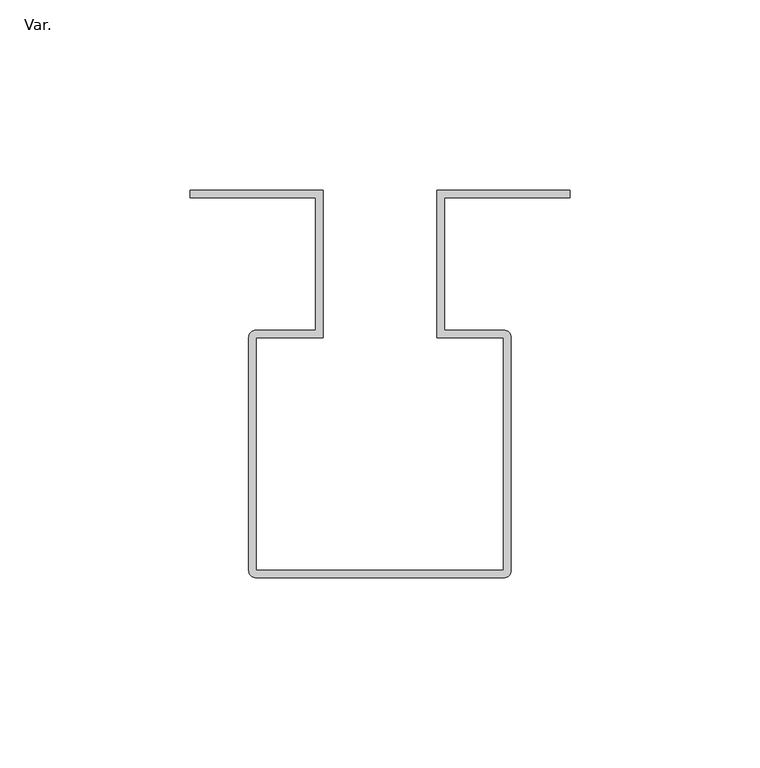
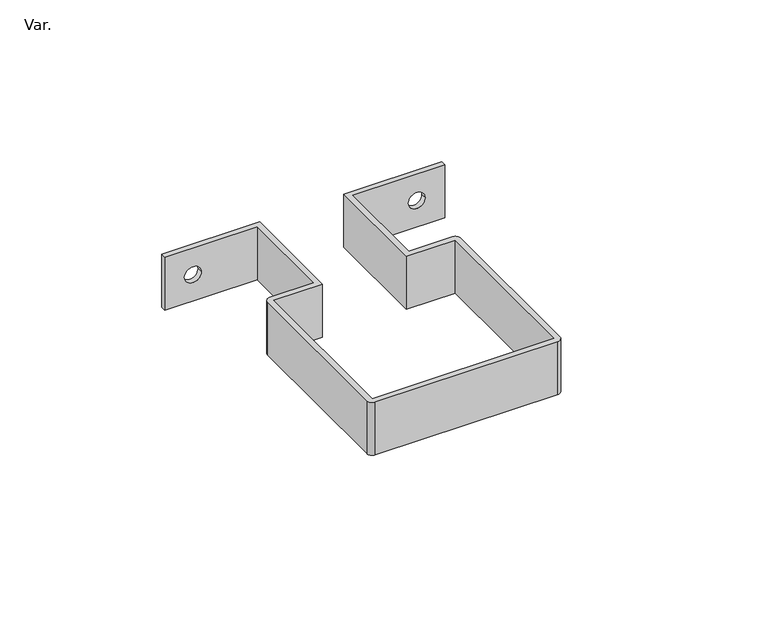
"""IFC4 building model written with IfcOpenShell, lengths in millimetres: pipe fitting geometry, PlastigamaWavin_Unionesdetubería_CanalesyBajantes_SoportedeBajante : Var.."""

from ifc_helpers import new_model, si_unit, frame, origin, place, context, project, spatial, polyline, circle_curve, source, transform, mapped, element, save
from ifc_brep_helpers import plane_surface, cylinder_surface, revolved_surface, advanced_brep


def var_38eae97e(model_context):
    return source(origin(), model_context, "Body", "AdvancedBrep", [
        advanced_brep(
        [(-34.53, 30.605, 10.0), (-34.53, -30.585, 10.0), (-32.53, -32.585, 10.0), (32.53, -32.585, 10.0), (34.53, -30.585, 10.0), (34.53, 30.605, 10.0), (32.55, 32.585, 10.0), (16.98, 32.585, 10.0), (16.98, 67.435, 10.0), (50.0, 67.435, 10.0), (50.0, 69.415, 10.0), (15.0, 69.415, 10.0), (15.0, 30.605, 10.0), (32.55, 30.605, 10.0), (32.55, -30.605, 10.0), (-32.55, -30.605, 10.0), (-32.55, 30.605, 10.0), (-15.0, 30.605, 10.0), (-15.0, 69.415, 10.0), (-50.0, 69.415, 10.0), (-50.0, 67.435, 10.0), (-16.98, 67.435, 10.0), (-16.98, 32.585, 10.0), (-32.55, 32.585, 10.0), (-34.53, 30.605, -10.0), (-32.55, 32.585, -10.0), (-16.98, 32.585, -10.0), (-16.98, 67.435, -10.0), (-50.0, 67.435, -10.0), (-50.0, 69.415, -10.0), (-15.0, 69.415, -10.0), (-15.0, 30.605, -10.0), (-32.55, 30.605, -10.0), (-32.55, -30.605, -10.0), (32.55, -30.605, -10.0), (32.55, 30.605, -10.0), (15.0, 30.605, -10.0), (15.0, 69.415, -10.0), (50.0, 69.415, -10.0), (50.0, 67.435, -10.0), (16.98, 67.435, -10.0), (16.98, 32.585, -10.0), (32.55, 32.585, -10.0), (34.53, 30.605, -10.0), (34.53, -30.585, -10.0), (32.53, -32.585, -10.0), (-32.53, -32.585, -10.0), (-34.53, -30.585, -10.0), (43.0, 67.435, 0.0), (37.0, 67.435, 0.0), (37.0, 69.415, 0.0), (43.0, 69.415, 0.0), (-43.0, 69.415, 0.0), (-37.0, 69.415, 0.0), (-37.0, 67.435, 0.0), (-43.0, 67.435, 0.0)],
        [
            (0, 1),
            (1, 2, circle_curve(frame((-32.53, -30.585, 10.0), z_axis=(0.0, 0.0, 1.0), x_axis=(1.0, 0.0, 0.0)), 2.0)),
            (2, 3),
            (3, 4, circle_curve(frame((32.53, -30.585, 10.0), z_axis=(0.0, 0.0, 1.0), x_axis=(1.0, 0.0, 0.0)), 2.0)),
            (4, 5),
            (5, 6, circle_curve(frame((32.55, 30.605, 10.0), z_axis=(0.0, 0.0, 1.0), x_axis=(1.0, 0.0, 0.0)), 1.98)),
            (6, 7),
            (7, 8),
            (8, 9),
            (9, 10),
            (10, 11),
            (11, 12),
            (12, 13),
            (13, 14),
            (14, 15),
            (15, 16),
            (16, 17),
            (17, 18),
            (18, 19),
            (19, 20),
            (20, 21),
            (21, 22),
            (22, 23),
            (23, 0, circle_curve(frame((-32.55, 30.605, 10.0), z_axis=(0.0, 0.0, 1.0), x_axis=(1.0, 0.0, 0.0)), 1.98)),
            (24, 25, circle_curve(frame((-32.55, 30.605, -10.0), z_axis=(0.0, 0.0, -1.0), x_axis=(1.0, 0.0, 0.0)), 1.98)),
            (25, 26),
            (26, 27),
            (27, 28),
            (28, 29),
            (29, 30),
            (30, 31),
            (31, 32),
            (32, 33),
            (33, 34),
            (34, 35),
            (35, 36),
            (36, 37),
            (37, 38),
            (38, 39),
            (39, 40),
            (40, 41),
            (41, 42),
            (42, 43, circle_curve(frame((32.55, 30.605, -10.0), z_axis=(0.0, 0.0, -1.0), x_axis=(1.0, 0.0, 0.0)), 1.98)),
            (43, 44),
            (44, 45, circle_curve(frame((32.53, -30.585, -10.0), z_axis=(0.0, 0.0, -1.0), x_axis=(1.0, 0.0, 0.0)), 2.0)),
            (45, 46),
            (46, 47, circle_curve(frame((-32.53, -30.585, -10.0), z_axis=(0.0, 0.0, -1.0), x_axis=(1.0, 0.0, 0.0)), 2.0)),
            (47, 24),
            (0, 24),
            (47, 1),
            (2, 46),
            (45, 3),
            (4, 44),
            (43, 5),
            (13, 35),
            (34, 14),
            (33, 15),
            (32, 16),
            (22, 26),
            (25, 23),
            (31, 17),
            (6, 42),
            (41, 7),
            (40, 8),
            (39, 9),
            (48, 49, circle_curve(frame((40.0, 67.435, 0.0), z_axis=(0.0, 1.0, 0.0), x_axis=(1.0, 0.0, 0.0)), 3.0)),
            (49, 48, circle_curve(frame((40.0, 67.435, 0.0), z_axis=(0.0, 1.0, 0.0), x_axis=(1.0, 0.0, 0.0)), 3.0)),
            (38, 10),
            (37, 11),
            (50, 51, circle_curve(frame((40.0, 69.415, 0.0), z_axis=(0.0, -1.0, 0.0), x_axis=(1.0, 0.0, 0.0)), 3.0)),
            (51, 50, circle_curve(frame((40.0, 69.415, 0.0), z_axis=(0.0, -1.0, 0.0), x_axis=(1.0, 0.0, 0.0)), 3.0)),
            (36, 12),
            (30, 18),
            (29, 19),
            (52, 53, circle_curve(frame((-40.0, 69.415, 0.0), z_axis=(0.0, -1.0, 0.0), x_axis=(1.0, 0.0, 0.0)), 3.0)),
            (53, 52, circle_curve(frame((-40.0, 69.415, 0.0), z_axis=(0.0, -1.0, 0.0), x_axis=(1.0, 0.0, 0.0)), 3.0)),
            (28, 20),
            (27, 21),
            (54, 55, circle_curve(frame((-40.0, 67.435, 0.0), z_axis=(0.0, 1.0, 0.0), x_axis=(1.0, 0.0, 0.0)), 3.0)),
            (55, 54, circle_curve(frame((-40.0, 67.435, 0.0), z_axis=(0.0, 1.0, 0.0), x_axis=(1.0, 0.0, 0.0)), 3.0)),
            (48, 51),
            (50, 49),
            (54, 53),
            (52, 55),
        ],
        [
            plane_surface(frame((-34.53, -32.755, 10.0), z_axis=(0.0, 0.0, 1.0), x_axis=(0.0, -1.0, 0.0))),
            plane_surface(frame((-34.53, -32.755, -10.0), z_axis=(0.0, 0.0, -1.0), x_axis=(0.0, 1.0, 0.0))),
            plane_surface(frame((-34.53, 30.605, 10.0), z_axis=(-1.0, 0.0, 0.0), x_axis=(0.0, 0.0, -1.0))),
            plane_surface(frame((-32.53, -32.585, 10.0), z_axis=(0.0, -1.0, 0.0), x_axis=(0.0, 0.0, -1.0))),
            plane_surface(frame((34.53, -30.585, 10.0), z_axis=(1.0, 0.0, 0.0), x_axis=(0.0, 0.0, -1.0))),
            plane_surface(frame((32.55, 30.605, 10.0), z_axis=(-1.0, 0.0, 0.0), x_axis=(0.0, 0.0, -1.0))),
            plane_surface(frame((32.55, -30.605, 10.0), z_axis=(0.0, 1.0, 0.0), x_axis=(0.0, 0.0, -1.0))),
            plane_surface(frame((-32.55, -30.605, 10.0), z_axis=(1.0, 0.0, 0.0), x_axis=(0.0, 0.0, -1.0))),
            plane_surface(frame((-16.98, 32.585, 10.0), z_axis=(0.0, 1.0, 0.0), x_axis=(0.0, 0.0, -1.0))),
            plane_surface(frame((-32.55, 30.605, 10.0), z_axis=(0.0, -1.0, 0.0), x_axis=(0.0, 0.0, -1.0))),
            plane_surface(frame((32.55, 32.585, 10.0), z_axis=(0.0, 1.0, 0.0), x_axis=(0.0, 0.0, -1.0))),
            plane_surface(frame((16.98, 32.585, 10.0), z_axis=(1.0, 0.0, 0.0), x_axis=(0.0, 0.0, -1.0))),
            plane_surface(frame((16.98, 67.435, 10.0), z_axis=(0.0, -1.0, 0.0), x_axis=(0.0, 0.0, -1.0))),
            plane_surface(frame((50.0, 67.435, 10.0), z_axis=(1.0, 0.0, 0.0), x_axis=(0.0, 0.0, -1.0))),
            plane_surface(frame((50.0, 69.415, 10.0), z_axis=(0.0, 1.0, 0.0), x_axis=(0.0, 0.0, -1.0))),
            plane_surface(frame((15.0, 69.415, 10.0), z_axis=(-1.0, 0.0, 0.0), x_axis=(0.0, 0.0, -1.0))),
            plane_surface(frame((15.0, 30.605, 10.0), z_axis=(0.0, -1.0, 0.0), x_axis=(0.0, 0.0, -1.0))),
            plane_surface(frame((-15.0, 30.605, 10.0), z_axis=(1.0, 0.0, 0.0), x_axis=(0.0, 0.0, -1.0))),
            plane_surface(frame((-15.0, 69.415, 10.0), z_axis=(0.0, 1.0, 0.0), x_axis=(0.0, 0.0, -1.0))),
            plane_surface(frame((-50.0, 69.415, 10.0), z_axis=(-1.0, 0.0, 0.0), x_axis=(0.0, 0.0, -1.0))),
            plane_surface(frame((-50.0, 67.435, 10.0), z_axis=(0.0, -1.0, 0.0), x_axis=(0.0, 0.0, -1.0))),
            plane_surface(frame((-16.98, 67.435, 10.0), z_axis=(-1.0, 0.0, 0.0), x_axis=(0.0, 0.0, -1.0))),
            revolved_surface(polyline([(43.0, 67.435, 0.0), (43.0, 69.415, 0.0)]), (40.0, 69.415, 0.0), (0.0, -1.0, 0.0)),
            revolved_surface(polyline([(-37.0, 67.435, 0.0), (-37.0, 69.415, 0.0)]), (-40.0, 0.0, 0.0), (0.0, -1.0, 0.0)),
            cylinder_surface(frame((-32.53, -30.585, -10.0), z_axis=(0.0, 0.0, 1.0), x_axis=(1.0, 0.0, 0.0)), 2.0),
            cylinder_surface(frame((32.53, -30.585, -10.0), z_axis=(0.0, 0.0, 1.0), x_axis=(1.0, 0.0, 0.0)), 2.0),
            cylinder_surface(frame((32.55, 30.605, -10.0), z_axis=(0.0, 0.0, 1.0), x_axis=(1.0, 0.0, 0.0)), 1.98),
            cylinder_surface(frame((-32.55, 30.605, -10.0), z_axis=(0.0, 0.0, 1.0), x_axis=(1.0, 0.0, 0.0)), 1.98),
        ],
        [
            (0, [[1, 2, 3, 4, 5, 6, 7, 8, 9, 10, 11, 12, 13, 14, 15, 16, 17, 18, 19, 20, 21, 22, 23, 24]]),
            (1, [[25, 26, 27, 28, 29, 30, 31, 32, 33, 34, 35, 36, 37, 38, 39, 40, 41, 42, 43, 44, 45, 46, 47, 48]]),
            (2, [[-1, 49, -48, 50]]),
            (3, [[-3, 51, -46, 52]]),
            (4, [[-5, 53, -44, 54]]),
            (5, [[-14, 55, -35, 56]]),
            (6, [[-15, -56, -34, 57]]),
            (7, [[-16, -57, -33, 58]]),
            (8, [[-23, 59, -26, 60]]),
            (9, [[-17, -58, -32, 61]]),
            (10, [[-7, 62, -42, 63]]),
            (11, [[-8, -63, -41, 64]]),
            (12, [[-9, -64, -40, 65], [66, 67]]),
            (13, [[-10, -65, -39, 68]]),
            (14, [[-11, -68, -38, 69], [70, 71]]),
            (15, [[-12, -69, -37, 72]]),
            (16, [[-13, -72, -36, -55]]),
            (17, [[-18, -61, -31, 73]]),
            (18, [[-19, -73, -30, 74], [75, 76]]),
            (19, [[-20, -74, -29, 77]]),
            (20, [[-21, -77, -28, 78], [79, 80]]),
            (21, [[-22, -78, -27, -59]]),
            (22, [[81, -70, 82, -66]]),
            (22, [[-81, -67, -82, -71]]),
            (23, [[83, -75, 84, -79]]),
            (23, [[-83, -80, -84, -76]]),
            (24, [[-2, -50, -47, -51]]),
            (25, [[-4, -52, -45, -53]]),
            (26, [[-6, -54, -43, -62]]),
            (27, [[-24, -60, -25, -49]]),
        ],
    ),
    ])


if __name__ == "__main__":
    model = new_model("IFC4")
    model_context = context("Model", 3, world=origin())
    ifc_project = project(units=[si_unit("LENGTHUNIT", "METRE", prefix="MILLI")], contexts=[model_context])
    site = spatial("IfcSite", under=ifc_project)
    building = spatial("IfcBuilding", under=site)
    placement = place(None, origin())
    var_shape = var_38eae97e(model_context)
    element("IfcPipeFitting", 1, ObjectType="PlastigamaWavin_Unionesdetubería_CanalesyBajantes_SoportedeBajante : Var.", at=placement, inside=building, context=model_context, shape_type="MappedRepresentation", body=[
        mapped(var_shape, transform((0.0, 0.0, 0.0), x_axis=(1.0, 0.0, 0.0), y_axis=(0.0, 1.0, 0.0), z_axis=(0.0, 0.0, 1.0))),
    ])
    save(model, "model.ifc")
